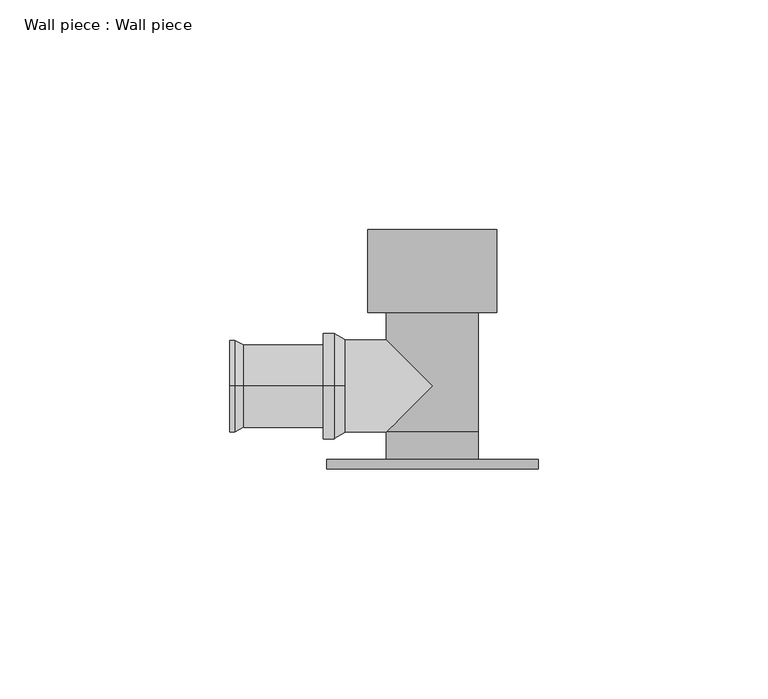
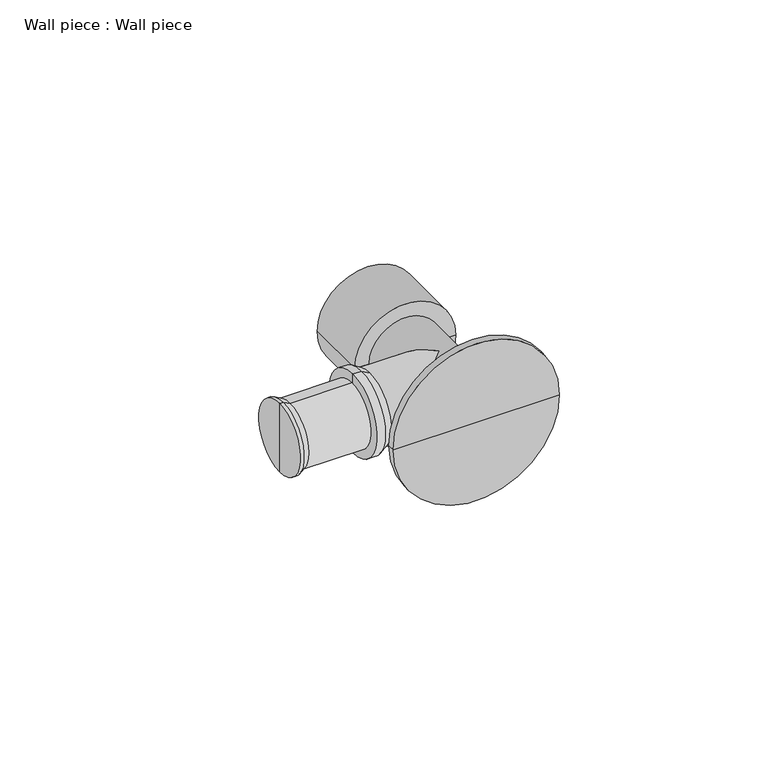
"""IFC4 building model written with IfcOpenShell, lengths in millimetres: pipe fitting geometry, Wall piece : Wall piece."""

import ifcopenshell
import ifcopenshell.guid

model = None  # the IFC model being written
_history = None  # IfcOwnerHistory: only IFC2X3 demands one
_inside = {}  # id of a spatial element -> (the spatial element, [elements in it])
_under = {}  # id of a project, library or spatial element -> (it, [spatial elements below it])
_declared = {}  # id of a project -> (the project, [libraries it declares])
_typed = {}  # id of a type object -> (the type object, [elements of that type])
_made_of = {}  # id of a material, layer set ... -> (it, [elements and type objects made of it])


def new_model(schema):
    """Start an empty IFC model of exactly this schema.

    Asked for "IFC4X3", IfcOpenShell would pick the latest addendum, in which some entities
    have other attributes; the version numbers below select the first issue.
    IFC2X3 requires an IfcOwnerHistory on every rooted entity: one is made here for all.
    """
    global model, _history
    if schema == "IFC4X3":
        model = ifcopenshell.file(schema_version=(4, 3, 0, 0))
    else:
        model = ifcopenshell.file(schema=schema)
    _inside.clear()
    _under.clear()
    _declared.clear()
    _typed.clear()
    _made_of.clear()
    _history = None
    if model.schema == "IFC2X3":
        org = make("IfcOrganization", Name="unknown")
        user = make(
            "IfcPersonAndOrganization",
            ThePerson=make("IfcPerson", FamilyName="unknown"),
            TheOrganization=org,
        )
        app = make(
            "IfcApplication",
            ApplicationDeveloper=org,
            Version="unknown",
            ApplicationFullName="unknown",
            ApplicationIdentifier="unknown",
        )
        _history = make(
            "IfcOwnerHistory",
            OwningUser=user,
            OwningApplication=app,
            ChangeAction="ADDED",
            CreationDate=0,
        )
    return model


def make(cls, **values):
    """One entity of the class cls with the attributes given. An attribute that is None is left unset."""
    return model.create_entity(
        cls, **{name: value for name, value in values.items() if value is not None}
    )


def rooted(cls, **values):
    """An entity with a GlobalId (a new one), such as an element, a storey or a relation."""
    return make(cls, GlobalId=ifcopenshell.guid.new(), OwnerHistory=_history, **values)


def si_unit(unit_type, name, prefix=None):
    """IfcSIUnit, for example si_unit("LENGTHUNIT", "METRE", prefix="MILLI")."""
    return make("IfcSIUnit", UnitType=unit_type, Prefix=prefix, Name=name)


def assignment(units):
    """IfcUnitAssignment: the units of a project."""
    return None if units is None else make("IfcUnitAssignment", Units=units)


def point(xyz):
    """IfcCartesianPoint."""
    return None if xyz is None else make("IfcCartesianPoint", Coordinates=xyz)


def direction(xyz):
    """IfcDirection."""
    return None if xyz is None else make("IfcDirection", DirectionRatios=xyz)


def frame(location, z_axis=None, x_axis=None):
    """IfcAxis2Placement3D, a coordinate frame: its origin and axes. An axis left out is left unset."""
    return make(
        "IfcAxis2Placement3D",
        Location=point(location),
        Axis=direction(z_axis),
        RefDirection=direction(x_axis),
    )


def origin():
    """The frame at (0, 0, 0) with its axes left unset."""
    return frame((0.0, 0.0, 0.0))


def place(relative_to, where):
    """IfcLocalPlacement: puts the frame where relative to a parent placement (None: the world)."""
    return make(
        "IfcLocalPlacement", PlacementRelTo=relative_to, RelativePlacement=where
    )


def context(
    kind, dimensions, precision=None, world=None, true_north=None, identifier=None
):
    """IfcGeometricRepresentationContext, for example the 3D "Model" context."""
    return make(
        "IfcGeometricRepresentationContext",
        ContextIdentifier=identifier,
        ContextType=kind,
        CoordinateSpaceDimension=dimensions,
        Precision=precision,
        WorldCoordinateSystem=world,
        TrueNorth=true_north,
    )


def project(units=None, contexts=None):
    """IfcProject with its units and contexts."""
    return rooted(
        "IfcProject",
        Name="project",
        RepresentationContexts=contexts,
        UnitsInContext=assignment(units),
    )


def spatial(cls, under=None, at=None, **own):
    """A site, building, storey or space (cls), placed at a placement, below another one or the project."""
    s = rooted(cls, ObjectPlacement=at, **own)
    if under is not None:
        _under.setdefault(under.id(), (under, []))[1].append(s)
    return s


def polyline(points):
    """IfcPolyline through the points."""
    return make("IfcPolyline", Points=[point(p) for p in points])


def circle_curve(where, radius):
    """IfcCircle in the frame where."""
    return make("IfcCircle", Position=where, Radius=radius)


def ellipse_curve(where, semi_axis1, semi_axis2):
    """IfcEllipse in the frame where."""
    return make(
        "IfcEllipse", Position=where, SemiAxis1=semi_axis1, SemiAxis2=semi_axis2
    )


def shape(context_of_items, identifier, shape_type, items):
    """IfcShapeRepresentation: the items that make up one representation, for example the "Body"."""
    return make(
        "IfcShapeRepresentation",
        ContextOfItems=context_of_items,
        RepresentationIdentifier=identifier,
        RepresentationType=shape_type,
        Items=items,
    )


def source(mapping_origin, context_of_items, identifier, shape_type, items):
    """IfcRepresentationMap: a shape defined once, which mapped items show again and again."""
    return make(
        "IfcRepresentationMap",
        MappingOrigin=mapping_origin,
        MappedRepresentation=shape(context_of_items, identifier, shape_type, items),
    )


def transform(
    local_origin,
    x_axis=None,
    y_axis=None,
    z_axis=None,
    scale=None,
    scale2=None,
    scale3=None,
    uniform=True,
):
    """IfcCartesianTransformationOperator3D, or its non-uniform kind. x_axis, y_axis, z_axis: its Axis1, 2, 3."""
    if uniform:
        return make(
            "IfcCartesianTransformationOperator3D",
            Axis1=direction(x_axis),
            Axis2=direction(y_axis),
            LocalOrigin=point(local_origin),
            Scale=scale,
            Axis3=direction(z_axis),
        )
    return make(
        "IfcCartesianTransformationOperator3DnonUniform",
        Axis1=direction(x_axis),
        Axis2=direction(y_axis),
        LocalOrigin=point(local_origin),
        Scale=scale,
        Axis3=direction(z_axis),
        Scale2=scale2,
        Scale3=scale3,
    )


def mapped(mapping_source, mapping_target):
    """IfcMappedItem: shows the shape of a source again, moved by a transform."""
    return make(
        "IfcMappedItem", MappingSource=mapping_source, MappingTarget=mapping_target
    )


def made_of(thing, what):
    """Note that an element or type object is made of a material, layer set ...; save() writes the relation."""
    if what is not None:
        _made_of.setdefault(what.id(), (what, []))[1].append(thing)
    return thing


def element(
    cls,
    number,
    at=None,
    inside=None,
    cuts=None,
    type_object=None,
    material=None,
    context=None,
    identifier="Body",
    shape_type=None,
    held_by="IfcProductDefinitionShape",
    body=None,
    shapes=None,
    **own,
):
    """One element of the class cls, such as IfcWall. Its Tag is "e" and its number.

    at: its placement. inside: the storey or other place that contains it. cuts: it is an
    opening in that element (IfcRelVoidsElement). A single representation is given by context,
    identifier, shape_type and body (its items); several are given by shapes. held_by: the class
    of the entity that holds the representations. save() writes the other relations.
    """
    e = rooted(cls, Tag="e%d" % number, ObjectPlacement=at, **own)
    if body is not None:
        shapes = [shape(context, identifier, shape_type, body)]
    if shapes is not None:
        e.Representation = make(held_by, Representations=shapes)
    if inside is not None:
        _inside.setdefault(inside.id(), (inside, []))[1].append(e)
    if cuts is not None:
        rooted(
            "IfcRelVoidsElement", RelatingBuildingElement=cuts, RelatedOpeningElement=e
        )
    if type_object is not None:
        _typed.setdefault(type_object.id(), (type_object, []))[1].append(e)
    return made_of(e, material)


def aggregate(whole, parts):
    """IfcRelAggregates: a whole, such as a stair, and the parts it consists of."""
    return rooted("IfcRelAggregates", RelatingObject=whole, RelatedObjects=parts)


def save(model, path):
    """Write the relations noted so far, then the file.

    IfcRelAggregates (storeys below a building ...), IfcRelContainedInSpatialStructure (elements
    in a storey), IfcRelDefinesByType, IfcRelAssociatesMaterial and IfcRelDeclares: one each for
    every whole, place, type object, material and project.
    """
    for whole, parts in _under.values():
        aggregate(whole, parts)
    for where, things in _inside.values():
        rooted(
            "IfcRelContainedInSpatialStructure",
            RelatedElements=things,
            RelatingStructure=where,
        )
    for kind, things in _typed.values():
        rooted("IfcRelDefinesByType", RelatedObjects=things, RelatingType=kind)
    for what, things in _made_of.values():
        rooted("IfcRelAssociatesMaterial", RelatedObjects=things, RelatingMaterial=what)
    for by, libraries in _declared.values():
        rooted("IfcRelDeclares", RelatingContext=by, RelatedDefinitions=libraries)
    model.write(path)


def plane_surface(at):
    """IfcPlane: the flat surface through the origin of the frame at, square to its z axis."""
    return make("IfcPlane", Position=at)


def cylinder_surface(at, radius):
    """IfcCylindricalSurface: all points at the distance radius from the z axis of the frame at."""
    return make("IfcCylindricalSurface", Position=at, Radius=radius)


def revolved_surface(curve, axis_point, axis_direction):
    """IfcSurfaceOfRevolution: the curve turned about the line through axis_point along axis_direction."""
    return make(
        "IfcSurfaceOfRevolution",
        SweptCurve=make("IfcArbitraryOpenProfileDef", ProfileType="CURVE", Curve=curve),
        AxisPosition=make("IfcAxis1Placement", Location=point(axis_point), Axis=direction(axis_direction)),
    )


def advanced_brep(points, edges, surfaces, faces):
    """IfcAdvancedBrep: a solid bounded by faces that lie on surfaces and meet in shared edges.

    An edge is (start, end): straight between two places in points (the first is 0);
    or (start, end, curve); or (start, end, curve, False) where it runs against its curve.
    A face is (place in surfaces, loops), or (place, loops, False) where it looks against
    its surface's normal. A loop lists edges by number (the first is 1), with a minus sign
    where the edge is run from its end to its start. The first loop is the outer one.
    """
    corners = [point(p) for p in points]
    vertices = [make("IfcVertexPoint", VertexGeometry=c) for c in corners]
    made = []
    for start, end, *more in edges:
        made.append(
            make(
                "IfcEdgeCurve",
                EdgeStart=vertices[start],
                EdgeEnd=vertices[end],
                EdgeGeometry=more[0] if more else make("IfcPolyline", Points=[corners[start], corners[end]]),
                SameSense=more[1] if len(more) > 1 else True,
            )
        )
    hull = []
    for where, loops, *sense in faces:
        bounds = []
        for j, loop in enumerate(loops):
            ring = [make("IfcOrientedEdge", EdgeElement=made[abs(k) - 1], Orientation=k > 0) for k in loop]
            bounds.append(
                make(
                    "IfcFaceOuterBound" if j == 0 else "IfcFaceBound",
                    Bound=make("IfcEdgeLoop", EdgeList=ring),
                    Orientation=True,
                )
            )
        hull.append(make("IfcAdvancedFace", Bounds=bounds, FaceSurface=surfaces[where], SameSense=sense[0] if sense else True))
    return make("IfcAdvancedBrep", Outer=make("IfcClosedShell", CfsFaces=hull))


def wall_piece_wall_piece_99f922b8(model_context):
    return source(origin(), model_context, "Body", "AdvancedBrep", [
        advanced_brep(
        [(-19.0, 0.0, 0.0), (-19.0, 0.0, 10.1432269), (-19.0, 0.0, -10.1432269), (-23.7, 0.0, -11.5), (-23.7, 0.0, 11.5), (-23.7, 0.0, 0.0), (-21.35, 0.0, -11.5), (-21.35, 0.0, 11.5)],
        [
            (0, 1),
            (1, 2, circle_curve(frame((-19.0, 0.0, 0.0), z_axis=(1.0, 0.0, 0.0), x_axis=(0.0, 0.0, 1.0)), 10.1432269)),
            (2, 0),
            (2, 1, circle_curve(frame((-19.0, 0.0, 0.0), z_axis=(1.0, 0.0, 0.0), x_axis=(0.0, 0.0, 1.0)), 10.1432269)),
            (3, 4, circle_curve(frame((-23.7, 0.0, 0.0), z_axis=(-1.0, 0.0, 0.0), x_axis=(0.0, 0.0, 1.0)), 11.5)),
            (4, 5),
            (5, 3),
            (4, 3, circle_curve(frame((-23.7, 0.0, 0.0), z_axis=(-1.0, 0.0, 0.0), x_axis=(0.0, 0.0, 1.0)), 11.5)),
            (6, 7, circle_curve(frame((-21.35, 0.0, 0.0), z_axis=(-1.0, 0.0, 0.0), x_axis=(0.0, 0.0, 1.0)), 11.5)),
            (7, 4),
            (3, 6),
            (7, 6, circle_curve(frame((-21.35, 0.0, 0.0), z_axis=(-1.0, 0.0, 0.0), x_axis=(0.0, 0.0, 1.0)), 11.5)),
            (1, 7),
            (6, 2),
        ],
        [
            plane_surface(frame((-19.0, 0.0, 0.0), z_axis=(1.0, 0.0, 0.0), x_axis=(0.0, 0.0, 1.0))),
            plane_surface(frame((-23.7, 0.0, 0.0), z_axis=(-1.0, 0.0, 0.0), x_axis=(0.0, 0.0, 1.0))),
            cylinder_surface(frame((-20.0, 0.0, 0.0), z_axis=(1.0, 0.0, 0.0), x_axis=(0.0, 0.0, 1.0)), 11.5),
            revolved_surface(polyline([(-21.35, 0.0, 11.5), (-19.0, 0.0, 10.1432269)]), (-20.0, 0.0, 0.0), (1.0, 0.0, 0.0)),
        ],
        [
            (0, [[1, 2, 3]]),
            (0, [[-3, 4, -1]]),
            (1, [[5, 6, 7]]),
            (1, [[8, -7, -6]]),
            (2, [[9, 10, -5, 11]]),
            (2, [[12, -11, -8, -10]]),
            (3, [[-2, 13, -9, 14]]),
            (3, [[-4, -14, -12, -13]]),
        ],
    ),
        advanced_brep(
        [(-23.7, 0.0, -9.0), (-23.7, 0.0, 9.0), (-41.0, 0.0, 9.0), (-41.0, 0.0, -9.0), (-44.0, 0.0, -10.0), (-44.0, 0.0, 10.0), (-44.0, 0.0, 0.0), (-23.7, 0.0, 0.0), (-43.0, 0.0, -10.0), (-43.0, 0.0, 10.0)],
        [
            (0, 1, circle_curve(frame((-23.7, 0.0, 0.0), z_axis=(-1.0, 0.0, 0.0), x_axis=(0.0, 0.0, 1.0)), 9.0)),
            (1, 2),
            (2, 3, circle_curve(frame((-41.0, 0.0, 0.0), z_axis=(1.0, 0.0, 0.0), x_axis=(0.0, 0.0, 1.0)), 9.0)),
            (3, 0),
            (1, 0, circle_curve(frame((-23.7, 0.0, 0.0), z_axis=(-1.0, 0.0, 0.0), x_axis=(0.0, 0.0, 1.0)), 9.0)),
            (3, 2, circle_curve(frame((-41.0, 0.0, 0.0), z_axis=(1.0, 0.0, 0.0), x_axis=(0.0, 0.0, 1.0)), 9.0)),
            (4, 5, circle_curve(frame((-44.0, 0.0, 0.0), z_axis=(-1.0, 0.0, 0.0), x_axis=(0.0, 0.0, 1.0)), 10.0)),
            (5, 6),
            (6, 4),
            (5, 4, circle_curve(frame((-44.0, 0.0, 0.0), z_axis=(-1.0, 0.0, 0.0), x_axis=(0.0, 0.0, 1.0)), 10.0)),
            (7, 1),
            (0, 7),
            (8, 9, circle_curve(frame((-43.0, 0.0, 0.0), z_axis=(-1.0, 0.0, 0.0), x_axis=(0.0, 0.0, 1.0)), 10.0)),
            (9, 5),
            (4, 8),
            (9, 8, circle_curve(frame((-43.0, 0.0, 0.0), z_axis=(-1.0, 0.0, 0.0), x_axis=(0.0, 0.0, 1.0)), 10.0)),
            (2, 9),
            (8, 3),
        ],
        [
            cylinder_surface(frame((1891.8038476, 0.0, 0.0), z_axis=(1.0, 0.0, 0.0), x_axis=(0.0, 0.0, 1.0)), 9.0),
            plane_surface(frame((-44.0, 0.0, 0.0), z_axis=(-1.0, 0.0, 0.0), x_axis=(0.0, 0.0, 1.0))),
            plane_surface(frame((-23.7, 0.0, 0.0), z_axis=(1.0, 0.0, 0.0), x_axis=(0.0, 0.0, 1.0))),
            cylinder_surface(frame((1891.8038476, 0.0, 0.0), z_axis=(1.0, 0.0, 0.0), x_axis=(0.0, 0.0, 1.0)), 10.0),
            revolved_surface(polyline([(-43.0, 0.0, 10.0), (-41.0, 0.0, 9.0)]), (1891.8038476, 0.0, 0.0), (1.0, 0.0, 0.0)),
        ],
        [
            (0, [[1, 2, 3, 4]]),
            (0, [[5, -4, 6, -2]]),
            (1, [[7, 8, 9]]),
            (1, [[10, -9, -8]]),
            (2, [[11, -1, 12]]),
            (2, [[-12, -5, -11]]),
            (3, [[13, 14, -7, 15]]),
            (3, [[16, -15, -10, -14]]),
            (4, [[-3, 17, -13, 18]]),
            (4, [[-6, -18, -16, -17]]),
        ],
    ),
        advanced_brep(
        [(-20.0, 10.0, 0.0), (-20.0, -10.0, 0.0), (-10.0, -10.0, 0.0), (0.0, 0.0, 10.0), (-10.0, 10.0, 0.0), (0.0, 0.0, -10.0), (0.0, 34.0, 0.0), (14.0, 34.0, 0.0), (-14.0, 34.0, 0.0), (-23.0, -18.0, 0.0), (23.0, -18.0, 0.0), (0.0, -18.0, 0.0), (-23.0, -16.0, 0.0), (23.0, -16.0, 0.0), (-10.0, -16.0, 0.0), (10.0, -16.0, 0.0), (10.0, -10.0, 0.0), (-10.0, 16.0, 0.0), (10.0, 16.0, 0.0), (10.0, 0.0, 0.0), (-14.0, 16.0, 0.0), (14.0, 16.0, 0.0)],
        [
            (0, 1, circle_curve(frame((-20.0, 0.0, 0.0), z_axis=(-1.0, 0.0, 0.0), x_axis=(0.0, -1.0, 0.0)), 10.0)),
            (1, 0, circle_curve(frame((-20.0, 0.0, 0.0), z_axis=(-1.0, 0.0, 0.0), x_axis=(0.0, -1.0, 0.0)), 10.0)),
            (1, 2),
            (2, 3, ellipse_curve(frame((0.0, 0.0, 0.0), z_axis=(-0.7071067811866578, 0.7071067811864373, 0.0), x_axis=(0.7071067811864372, 0.7071067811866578, 0.0)), 14.1421356, 10.0)),
            (3, 4, ellipse_curve(frame((0.0, 0.0, 0.0), z_axis=(-0.7071067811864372, -0.7071067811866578, 0.0), x_axis=(0.7071067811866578, -0.7071067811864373, 0.0)), 14.1421356, 10.0)),
            (4, 0),
            (4, 5, ellipse_curve(frame((0.0, 0.0, 0.0), z_axis=(-0.7071067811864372, -0.7071067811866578, 0.0), x_axis=(0.7071067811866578, -0.7071067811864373, 0.0)), 14.1421356, 10.0)),
            (5, 2, ellipse_curve(frame((0.0, 0.0, 0.0), z_axis=(-0.7071067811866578, 0.7071067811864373, 0.0), x_axis=(0.7071067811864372, 0.7071067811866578, 0.0)), 14.1421356, 10.0)),
            (6, 7),
            (7, 8, circle_curve(frame((0.0, 34.0, 0.0), z_axis=(0.0, 1.0, 0.0), x_axis=(1.0, 0.0, 0.0)), 14.0)),
            (8, 6),
            (8, 7, circle_curve(frame((0.0, 34.0, 0.0), z_axis=(0.0, 1.0, 0.0), x_axis=(1.0, 0.0, 0.0)), 14.0)),
            (9, 10, circle_curve(frame((0.0, -18.0, 0.0), z_axis=(0.0, -1.0, 0.0), x_axis=(1.0, 0.0, 0.0)), 23.0)),
            (10, 11),
            (11, 9),
            (10, 9, circle_curve(frame((0.0, -18.0, 0.0), z_axis=(0.0, -1.0, 0.0), x_axis=(1.0, 0.0, 0.0)), 23.0)),
            (9, 12),
            (12, 13, circle_curve(frame((0.0, -16.0, 0.0), z_axis=(0.0, -1.0, 0.0), x_axis=(1.0, 0.0, 0.0)), 23.0)),
            (13, 10),
            (13, 12, circle_curve(frame((0.0, -16.0, 0.0), z_axis=(0.0, -1.0, 0.0), x_axis=(1.0, 0.0, 0.0)), 23.0)),
            (12, 14),
            (14, 15, circle_curve(frame((0.0, -16.0, 0.0), z_axis=(0.0, -1.0, 0.0), x_axis=(1.0, 0.0, 0.0)), 10.0)),
            (15, 13),
            (15, 14, circle_curve(frame((0.0, -16.0, 0.0), z_axis=(0.0, -1.0, 0.0), x_axis=(1.0, 0.0, 0.0)), 10.0)),
            (14, 2),
            (2, 16, circle_curve(frame((0.0, -10.0, 0.0), z_axis=(0.0, -1.0, 0.0), x_axis=(1.0, 0.0, 0.0)), 10.0)),
            (16, 15),
            (16, 2, circle_curve(frame((0.0, -10.0, 0.0), z_axis=(0.0, -1.0, 0.0), x_axis=(1.0, 0.0, 0.0)), 10.0)),
            (4, 17),
            (17, 18, circle_curve(frame((0.0, 16.0, 0.0), z_axis=(0.0, -1.0, 0.0), x_axis=(1.0, 0.0, 0.0)), 10.0)),
            (18, 19),
            (19, 16),
            (18, 17, circle_curve(frame((0.0, 16.0, 0.0), z_axis=(0.0, -1.0, 0.0), x_axis=(1.0, 0.0, 0.0)), 10.0)),
            (17, 20),
            (20, 21, circle_curve(frame((0.0, 16.0, 0.0), z_axis=(0.0, -1.0, 0.0), x_axis=(1.0, 0.0, 0.0)), 14.0)),
            (21, 18),
            (21, 20, circle_curve(frame((0.0, 16.0, 0.0), z_axis=(0.0, -1.0, 0.0), x_axis=(1.0, 0.0, 0.0)), 14.0)),
            (7, 21),
            (20, 8),
        ],
        [
            plane_surface(frame((-20.0, 0.0, 0.0), z_axis=(-1.0, 0.0, 0.0), x_axis=(0.0, 0.0, 1.0))),
            cylinder_surface(frame((0.0, 0.0, 0.0), z_axis=(1.0, 0.0, 0.0), x_axis=(0.0, -1.0, 0.0)), 10.0),
            plane_surface(frame((0.0, 34.0, 0.0), z_axis=(0.0, 1.0, 0.0), x_axis=(1.0, 0.0, 0.0))),
            plane_surface(frame((0.0, -18.0, 0.0), z_axis=(0.0, -1.0, 0.0), x_axis=(1.0, 0.0, 0.0))),
            cylinder_surface(frame((0.0, 0.0, 0.0), z_axis=(0.0, 1.0, 0.0), x_axis=(1.0, 0.0, 0.0)), 23.0),
            plane_surface(frame((0.0, -16.0, 0.0), z_axis=(0.0, 1.0, 0.0), x_axis=(1.0, 0.0, 0.0))),
            cylinder_surface(frame((0.0, 0.0, 0.0), z_axis=(0.0, 1.0, 0.0), x_axis=(1.0, 0.0, 0.0)), 10.0),
            plane_surface(frame((0.0, 16.0, 0.0), z_axis=(0.0, -1.0, 0.0), x_axis=(1.0, 0.0, 0.0))),
            cylinder_surface(frame((0.0, 0.0, 0.0), z_axis=(0.0, 1.0, 0.0), x_axis=(1.0, 0.0, 0.0)), 14.0),
        ],
        [
            (0, [[1, 2]]),
            (1, [[-2, 3, 4, 5, 6]]),
            (1, [[-1, -6, 7, 8, -3]]),
            (2, [[9, 10, 11]]),
            (2, [[-9, -11, 12]]),
            (3, [[13, 14, 15]]),
            (3, [[-14, 16, -15]]),
            (4, [[-13, 17, 18, 19]]),
            (4, [[-16, -19, 20, -17]]),
            (5, [[-18, 21, 22, 23]]),
            (5, [[-20, -23, 24, -21]]),
            (6, [[-22, 25, 26, 27]]),
            (6, [[-24, -27, 28, -25]]),
            (6, [[-26, -8, -7, 29, 30, 31, 32]]),
            (6, [[-28, -32, -31, 33, -29, -5, -4]]),
            (7, [[-30, 34, 35, 36]]),
            (7, [[-33, -36, 37, -34]]),
            (8, [[-10, 38, -35, 39]]),
            (8, [[-12, -39, -37, -38]]),
        ],
    ),
    ])


if __name__ == "__main__":
    model = new_model("IFC4")
    model_context = context("Model", 3, world=origin())
    ifc_project = project(units=[si_unit("LENGTHUNIT", "METRE", prefix="MILLI")], contexts=[model_context])
    site = spatial("IfcSite", under=ifc_project)
    building = spatial("IfcBuilding", under=site)
    placement = place(None, origin())
    wall_piece_wall_piece_shape = wall_piece_wall_piece_99f922b8(model_context)
    element("IfcPipeFitting", 1, ObjectType="Wall piece : Wall piece", at=placement, inside=building, context=model_context, shape_type="MappedRepresentation", body=[
        mapped(wall_piece_wall_piece_shape, transform((0.0, 0.0, 0.0), x_axis=(1.0, 0.0, 0.0), y_axis=(0.0, 1.0, 0.0), z_axis=(0.0, 0.0, 1.0))),
    ])
    save(model, "model.ifc")
